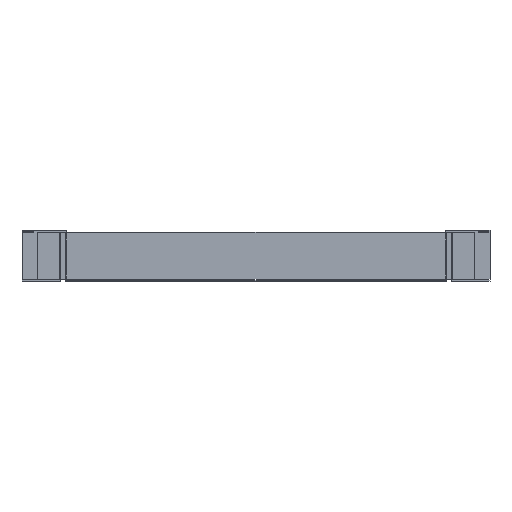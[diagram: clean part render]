
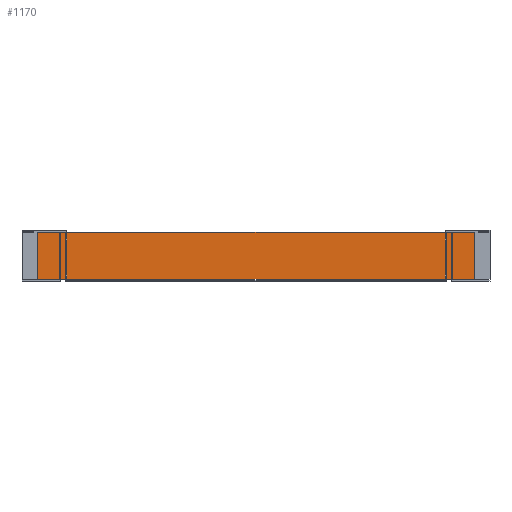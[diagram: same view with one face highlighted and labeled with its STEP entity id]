
A CAD part, front view. The second image highlights one B-rep face of the part: STEP entity #1170.
In plain terms, the highlighted planar face has unit normal (0, -1, 0).
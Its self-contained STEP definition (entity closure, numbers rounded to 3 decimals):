
#121=DIRECTION('',(0.,0.,1.));
#122=VECTOR('',#121,60.);
#123=CARTESIAN_POINT('',(277.,1780.,-30.));
#124=LINE('',#123,#122);
#449=DIRECTION('',(1.,0.,0.));
#450=VECTOR('',#449,554.);
#451=CARTESIAN_POINT('',(-277.,1780.,30.));
#452=LINE('',#451,#450);
#469=DIRECTION('',(1.,0.,0.));
#470=VECTOR('',#469,554.);
#471=CARTESIAN_POINT('',(-277.,1780.,-30.));
#472=LINE('',#471,#470);
#501=DIRECTION('',(0.,0.,1.));
#502=VECTOR('',#501,60.);
#503=CARTESIAN_POINT('',(-277.,1780.,-30.));
#504=LINE('',#503,#502);
#521=CARTESIAN_POINT('',(-277.,1780.,-30.));
#522=VERTEX_POINT('',#521);
#523=CARTESIAN_POINT('',(277.,1780.,-30.));
#524=VERTEX_POINT('',#523);
#533=CARTESIAN_POINT('',(-277.,1780.,30.));
#534=CARTESIAN_POINT('',(277.,1780.,30.));
#535=VERTEX_POINT('',#533);
#536=VERTEX_POINT('',#534);
#1159=CARTESIAN_POINT('',(-277.,1780.,-30.));
#1160=DIRECTION('',(0.,-1.,0.));
#1161=DIRECTION('',(1.,0.,0.));
#1162=AXIS2_PLACEMENT_3D('',#1159,#1160,#1161);
#1163=PLANE('',#1162);
#1164=ORIENTED_EDGE('',*,*,#1120,.F.);
#1165=ORIENTED_EDGE('',*,*,#1140,.T.);
#1166=ORIENTED_EDGE('',*,*,#1091,.T.);
#1167=ORIENTED_EDGE('',*,*,#675,.F.);
#1168=EDGE_LOOP('',(#1164,#1165,#1166,#1167));
#1169=FACE_OUTER_BOUND('',#1168,.F.);
#675=EDGE_CURVE('',#524,#536,#124,.T.);
#1091=EDGE_CURVE('',#535,#536,#452,.T.);
#1120=EDGE_CURVE('',#522,#524,#472,.T.);
#1140=EDGE_CURVE('',#522,#535,#504,.T.);
#1170=ADVANCED_FACE('',(#1169),#1163,.T.);
